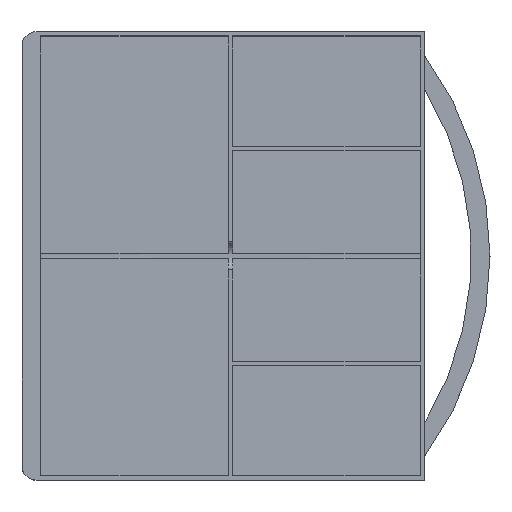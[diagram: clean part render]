
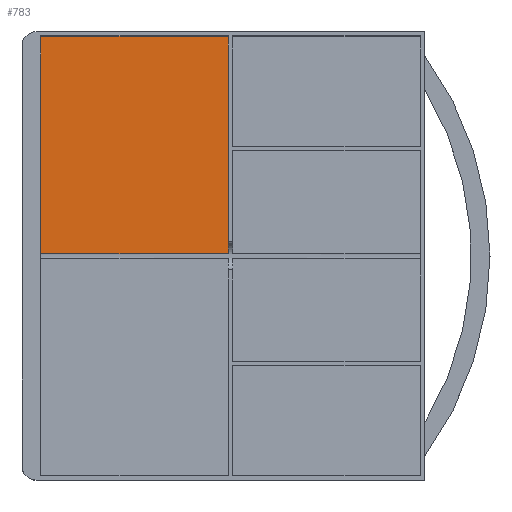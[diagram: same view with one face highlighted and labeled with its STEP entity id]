
A CAD part, top view. The second image highlights one B-rep face of the part: STEP entity #783.
In plain terms, the highlighted planar face has unit normal (0, 0, 1).
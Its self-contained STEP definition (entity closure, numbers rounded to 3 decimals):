
#33=PLANE('',#855);
#75=FACE_OUTER_BOUND('',#120,.T.);
#120=EDGE_LOOP('',(#657,#658,#659,#660));
#189=LINE('',#1201,#284);
#198=LINE('',#1217,#293);
#200=LINE('',#1221,#295);
#211=LINE('',#1255,#306);
#284=VECTOR('',#962,10.);
#293=VECTOR('',#975,10.);
#295=VECTOR('',#979,10.);
#306=VECTOR('',#1016,10.);
#395=VERTEX_POINT('',#1198);
#396=VERTEX_POINT('',#1200);
#401=VERTEX_POINT('',#1215);
#402=VERTEX_POINT('',#1219);
#479=EDGE_CURVE('',#396,#395,#189,.F.);
#488=EDGE_CURVE('',#395,#401,#198,.F.);
#490=EDGE_CURVE('',#401,#402,#200,.F.);
#507=EDGE_CURVE('',#402,#396,#211,.F.);
#657=ORIENTED_EDGE('',*,*,#488,.T.);
#658=ORIENTED_EDGE('',*,*,#490,.T.);
#659=ORIENTED_EDGE('',*,*,#507,.T.);
#660=ORIENTED_EDGE('',*,*,#479,.T.);
#783=ADVANCED_FACE('',(#75),#33,.F.);
#855=AXIS2_PLACEMENT_3D('',#1256,#1017,#1018);
#962=DIRECTION('',(0.,1.,0.));
#975=DIRECTION('',(-1.,0.,0.));
#979=DIRECTION('',(0.,-1.,0.));
#1016=DIRECTION('',(1.,0.,0.));
#1017=DIRECTION('center_axis',(0.,0.,-1.));
#1018=DIRECTION('ref_axis',(0.,1.,0.));
#1198=CARTESIAN_POINT('',(8.,0.45,-8.6));
#1200=CARTESIAN_POINT('',(8.,47.,-8.6));
#1201=CARTESIAN_POINT('',(8.,-23.725,-8.6));
#1215=CARTESIAN_POINT('',(48.1,0.45,-8.6));
#1217=CARTESIAN_POINT('',(26.05,0.45,-8.6));
#1219=CARTESIAN_POINT('',(48.1,47.,-8.6));
#1221=CARTESIAN_POINT('',(48.1,-0.45,-8.6));
#1255=CARTESIAN_POINT('',(6.,47.,-8.6));
#1256=CARTESIAN_POINT('Origin',(4.,-47.9,-8.6));
